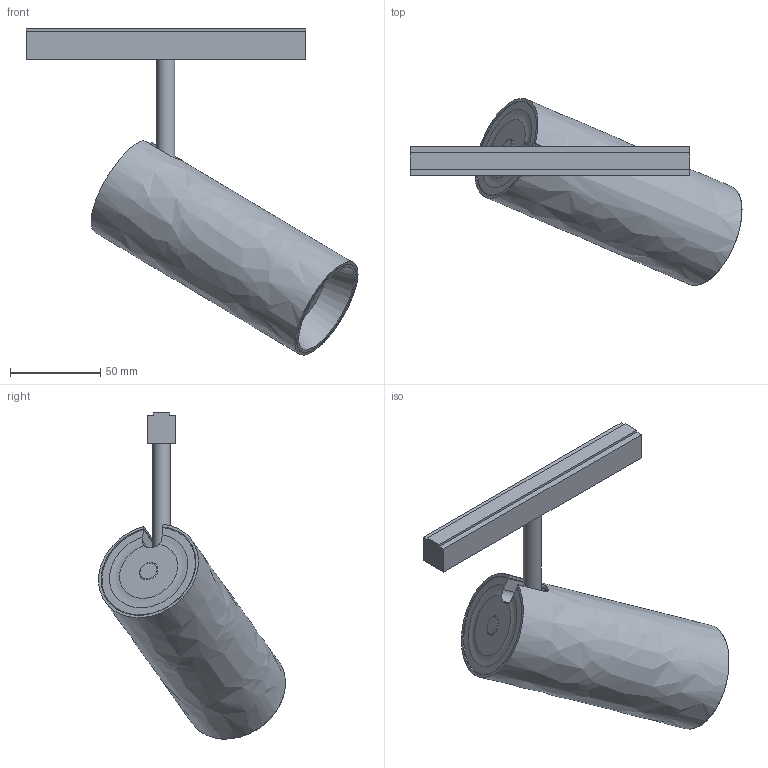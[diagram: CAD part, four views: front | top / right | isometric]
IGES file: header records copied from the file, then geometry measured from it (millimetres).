
Start section: SolidWorks IGES file using analytic representation for surfaces
Global section: file name: X:\PRODUKT\Modele 3D_WWW\_KOLEKCJE WWW\_LVM\LVM-SPOT-L-LED-10147\LVM-SPOT-L-LED-10147.IGS; native system: SolidWorks 2021; preprocessor: SolidWorks 2021; author: gabriela.tworek; date: 220511.111232; units: millimetre
Bounding box: 183.8 x 103.43 x 180.56 mm (x, y, z)
Surface area: 91838.1 mm2 (no closed solid volume)
Topology: 0 solids, 0 shells, 54 faces, 206 edges, 192 vertices
Faces by surface type: bspline 32, revolution 22
